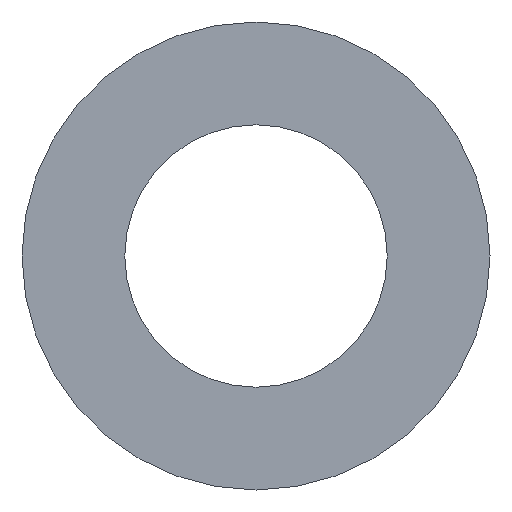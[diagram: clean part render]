
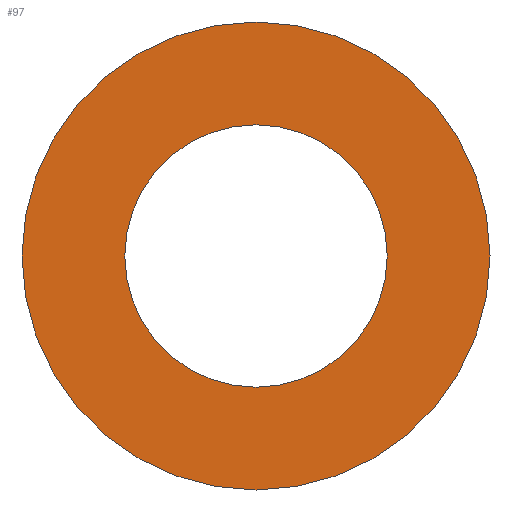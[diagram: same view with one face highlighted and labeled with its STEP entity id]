
A CAD part, front view. The second image highlights one B-rep face of the part: STEP entity #97.
In plain terms, the highlighted planar face has unit normal (0, -1, 0).
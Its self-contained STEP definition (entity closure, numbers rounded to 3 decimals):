
#21=FACE_BOUND('',#40,.T.);
#29=FACE_OUTER_BOUND('',#39,.T.);
#39=EDGE_LOOP('',(#79));
#40=EDGE_LOOP('',(#80));
#53=CIRCLE('',#109,11.5);
#54=CIRCLE('',#111,20.5);
#61=VERTEX_POINT('',#162);
#62=VERTEX_POINT('',#165);
#69=EDGE_CURVE('',#61,#61,#53,.T.);
#70=EDGE_CURVE('',#62,#62,#54,.T.);
#79=ORIENTED_EDGE('',*,*,#70,.F.);
#80=ORIENTED_EDGE('',*,*,#69,.T.);
#92=PLANE('',#110);
#97=ADVANCED_FACE('',(#29,#21),#92,.T.);
#109=AXIS2_PLACEMENT_3D('',#163,#131,#132);
#110=AXIS2_PLACEMENT_3D('',#164,#133,#134);
#111=AXIS2_PLACEMENT_3D('',#166,#135,#136);
#131=DIRECTION('center_axis',(0.,1.,0.));
#132=DIRECTION('ref_axis',(1.,0.,0.));
#133=DIRECTION('center_axis',(0.,-1.,0.));
#134=DIRECTION('ref_axis',(0.,0.,-1.));
#135=DIRECTION('center_axis',(0.,1.,0.));
#136=DIRECTION('ref_axis',(1.,0.,0.));
#162=CARTESIAN_POINT('',(-11.5,0.,0.));
#163=CARTESIAN_POINT('Origin',(0.,0.,0.));
#164=CARTESIAN_POINT('Origin',(-20.5,0.,0.));
#165=CARTESIAN_POINT('',(-20.5,0.,0.));
#166=CARTESIAN_POINT('Origin',(0.,0.,0.));
